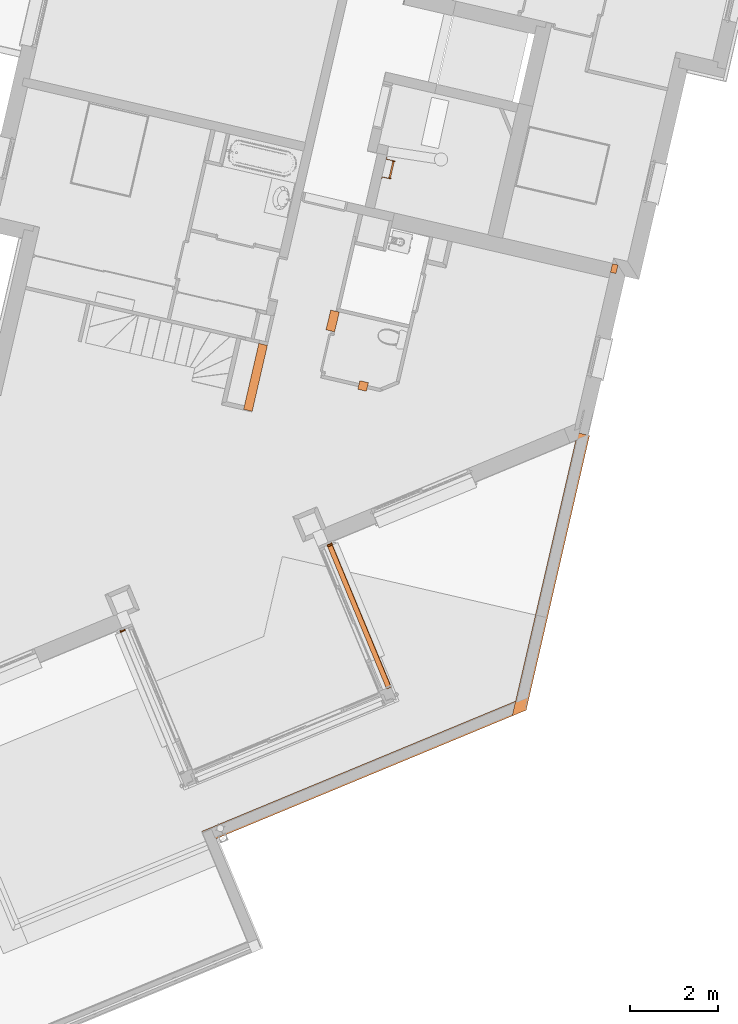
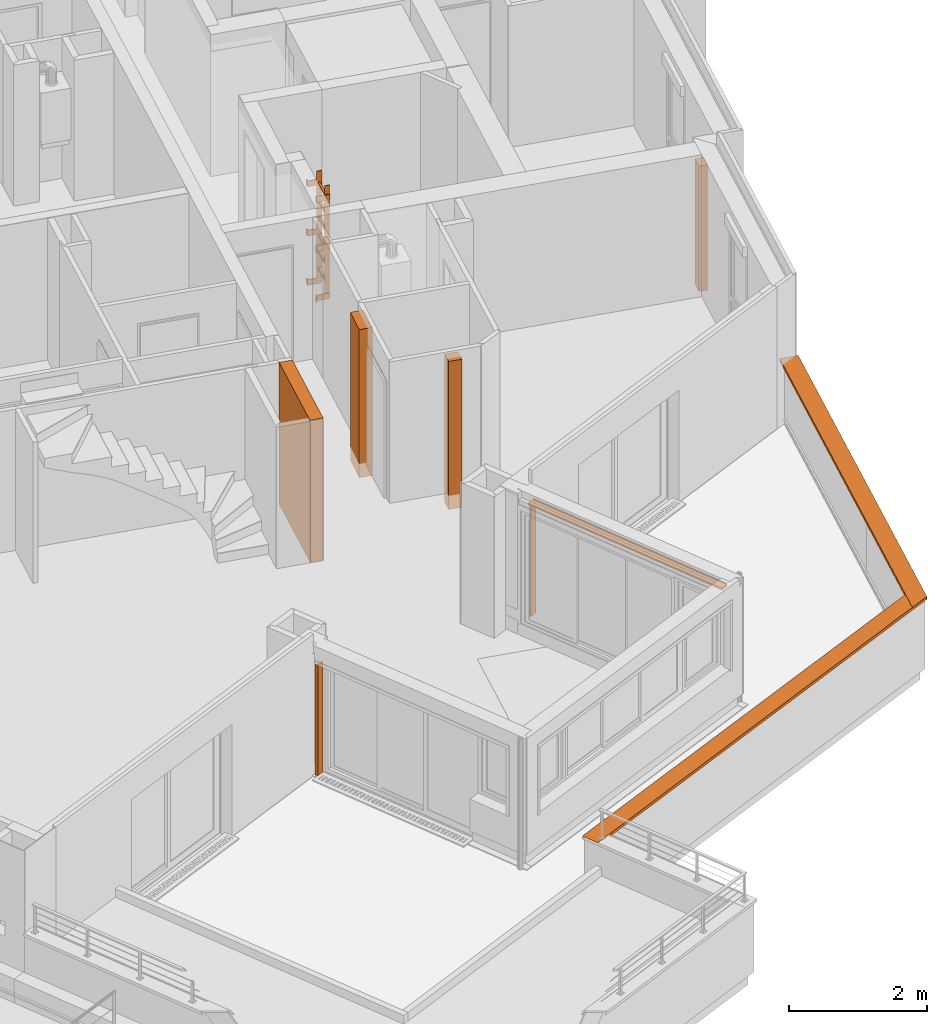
# One storey, part 60 of 62: 10 proxies.
"""IFC2X3 building model written with IfcOpenShell, lengths in metres."""

from ifc_helpers import new_model, entity, si_unit, converted_unit, derived_unit, money_unit, direction, frame, origin_with_axes, place, context, subcontext, project, spatial, faceted_brep, material, material_list, type_object, element, save


model = new_model("IFC2X3")

# Units and contexts
model_context = context("Model", 3, precision=1e-05, world=origin_with_axes(), true_north=direction((0.0, 1.0)))
body_context = subcontext(model_context, "Body", "Model", "MODEL_VIEW")
ifc_project = project(units=[si_unit("LENGTHUNIT", "METRE"), si_unit("AREAUNIT", "SQUARE_METRE"), si_unit("VOLUMEUNIT", "CUBIC_METRE"), converted_unit("PLANEANGLEUNIT", "DEGREE", entity("IfcPlaneAngleMeasure", 0.0174532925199), si_unit("PLANEANGLEUNIT", "RADIAN"), dimensions=[0, 0, 0, 0, 0, 0, 0]), si_unit("SOLIDANGLEUNIT", "STERADIAN"), money_unit("EUR"), converted_unit("TIMEUNIT", "Year", entity("IfcTimeMeasure", 31556926.0), si_unit("TIMEUNIT", "SECOND"), dimensions=[0, 0, 1, 0, 0, 0, 0]), si_unit("MASSUNIT", "GRAM", prefix="KILO"), si_unit("THERMODYNAMICTEMPERATUREUNIT", "DEGREE_CELSIUS"), si_unit("LUMINOUSINTENSITYUNIT", "LUMEN"), si_unit("ENERGYUNIT", "JOULE", prefix="MEGA"), derived_unit("THERMALCONDUCTANCEUNIT", [(si_unit("POWERUNIT", "WATT"), 1), (si_unit("LENGTHUNIT", "METRE"), -1), (si_unit("THERMODYNAMICTEMPERATUREUNIT", "KELVIN"), -1)]), derived_unit("SPECIFICHEATCAPACITYUNIT", [(si_unit("ENERGYUNIT", "JOULE"), 1), (si_unit("MASSUNIT", "GRAM", prefix="KILO"), -1), (si_unit("THERMODYNAMICTEMPERATUREUNIT", "KELVIN"), -1)]), derived_unit("MASSDENSITYUNIT", [(si_unit("MASSUNIT", "GRAM", prefix="KILO"), 1), (si_unit("VOLUMEUNIT", "CUBIC_METRE"), -1)])], contexts=[model_context])

# Site, building, storey
site_placement = place(None, origin_with_axes())
site = spatial("IfcSite", under=ifc_project, at=site_placement, Name="Site", CompositionType="ELEMENT")
building_placement = place(site_placement, origin_with_axes())
building = spatial("IfcBuilding", under=site, at=building_placement, Name="Bâtiment", CompositionType="ELEMENT")
storey_placement = place(building_placement, frame((0.0, 0.0, 8.16), z_axis=(0.0, 0.0, 1.0), x_axis=(1.0, 0.0, 0.0)))
storey = spatial("IfcBuildingStorey", under=building, at=storey_placement, Name="R+3", CompositionType="ELEMENT", Elevation=8.16)

# Proxies
ifc_material_1 = material(Name="Béton")
building_element_proxy_type_1 = type_object("IfcBuildingElementProxyType", Name="Béton 200", PredefinedType="NOTDEFINED")
proxy_1_placement = place(storey_placement, frame((-5.52689270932, -10.0728707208, -0.21), z_axis=(0.0, 0.0, 1.0), x_axis=(-0.974387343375, 0.224876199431, 0.0)))
element("IfcBuildingElementProxy", 1, at=proxy_1_placement, inside=storey, type_object=building_element_proxy_type_1, material=ifc_material_1, Name="M_Ext-007", context=body_context, shape_type="Brep", body=[
    faceted_brep([(0.0, 0.2, 2.43), (0.0, 0.2, 0.210000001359), (0.0, 0.0, 0.210000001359), (0.0, 0.0, 2.43), (0.13, 0.2, 2.43), (0.13, 0.2, 0.210000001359), (0.13, 0.0, 0.210000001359), (0.13, 0.0, 2.43)], [[[0, 1, 2, 3]], [[4, 5, 1, 0]], [[5, 6, 2, 1]], [[3, 2, 6, 7]], [[0, 3, 7, 4]], [[7, 6, 5, 4]]]),
])
ifc_material_2 = material(Name="Volume - Etude")
building_element_proxy_type_2 = type_object("IfcBuildingElementProxyType", Name="Volume - Etude", PredefinedType="NOTDEFINED")
proxy_2_placement = place(storey_placement, frame((-12.179389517, -16.4489291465, 1.03579627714), z_axis=(0.0, 0.0, 1.0), x_axis=(0.813891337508, 0.581017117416, 0.0)))
element("IfcBuildingElementProxy", 2, at=proxy_2_placement, inside=storey, type_object=building_element_proxy_type_2, material=ifc_material_2, Name="Forme-009", context=body_context, shape_type="Brep", body=[
    faceted_brep([(0.199337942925, -0.0254789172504, -0.780796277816), (0.199337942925, -0.0254789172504, 1.1742037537), (0.188094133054, -0.0741982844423, 1.1742037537), (0.188094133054, -0.0741982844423, -0.780796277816), (0.189631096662, -0.023238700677, -0.780796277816), (0.189631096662, -0.023238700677, 1.1742037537), (0.185133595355, -0.0427264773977, 1.1742037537), (0.0774534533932, -0.0178752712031, 1.1742037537), (0.07070717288, -0.047106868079, 1.1742037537), (0.07070717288, -0.047106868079, -0.780796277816), (0.0774534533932, -0.0178752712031, -0.780796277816), (0.185133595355, -0.0427264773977, -0.780796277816)], [[[0, 1, 2, 3]], [[4, 5, 1, 0]], [[1, 5, 6, 7, 8, 2]], [[3, 2, 8, 9]], [[3, 9, 10, 11, 4, 0]], [[4, 11, 6, 5]], [[6, 11, 10, 7]], [[10, 9, 8, 7]]]),
])
proxy_3_placement = place(storey_placement, frame((-16.6051915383, -18.2809897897, 1.03579627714), z_axis=(0.0, 0.0, 1.0), x_axis=(0.98619611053, 0.165581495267, 0.0)))
element("IfcBuildingElementProxy", 3, at=proxy_3_placement, inside=storey, type_object=building_element_proxy_type_2, material=ifc_material_2, Name="Forme-009", context=body_context, shape_type="Brep", body=[
    faceted_brep([(-0.199337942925, -0.0254789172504, -0.780796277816), (-0.188094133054, -0.0741982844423, -0.780796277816), (-0.188094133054, -0.0741982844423, 1.1742037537), (-0.199337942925, -0.0254789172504, 1.1742037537), (-0.189631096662, -0.023238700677, -0.780796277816), (-0.185133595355, -0.0427264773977, -0.780796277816), (-0.0774534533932, -0.0178752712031, -0.780796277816), (-0.07070717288, -0.047106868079, -0.780796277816), (-0.07070717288, -0.047106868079, 1.1742037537), (-0.0774534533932, -0.0178752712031, 1.1742037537), (-0.185133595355, -0.0427264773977, 1.1742037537), (-0.189631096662, -0.023238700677, 1.1742037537)], [[[0, 1, 2, 3]], [[1, 0, 4, 5, 6, 7]], [[1, 7, 8, 2]], [[3, 2, 8, 9, 10, 11]], [[4, 0, 3, 11]], [[4, 11, 10, 5]], [[10, 9, 6, 5]], [[6, 9, 8, 7]]]),
])
proxy_4_placement = place(storey_placement, frame((-11.3664084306, -18.2015801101, 2.25000000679), z_axis=(0.0, 0.0, 1.0), x_axis=(0.813890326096, 0.581018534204, 0.0)))
element("IfcBuildingElementProxy", 4, at=proxy_4_placement, inside=storey, type_object=building_element_proxy_type_2, material=ifc_material_2, Name="Forme-010", context=body_context, shape_type="Brep", body=[
    faceted_brep([(-0.239335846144, -1.57276923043, 0.0200000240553), (-0.249042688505, -1.57052899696, 0.0200000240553), (-0.24904266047, -1.57052900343, 0.0), (-0.356722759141, -1.54567760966, 0.0), (-0.356722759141, -1.54567760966, -0.0399999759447), (-0.239335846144, -1.57276923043, -0.0399999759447), (0.555983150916, 1.87334347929, 0.0200000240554), (0.546276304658, 1.87558369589, 0.0200000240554), (0.546276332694, 1.87558368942, 0.0), (0.438596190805, 1.90043489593, 0.0), (0.438596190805, 1.90043489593, -0.0399999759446), (0.555983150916, 1.87334347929, -0.0399999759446)], [[[0, 1, 2, 3, 4, 5]], [[1, 0, 6, 7]], [[2, 1, 7, 8]], [[3, 2, 8, 9]], [[4, 3, 9, 10]], [[5, 4, 10, 11]], [[0, 5, 11, 6]], [[6, 11, 10, 9, 8, 7]]]),
])
ifc_material_3 = material(Name="Métal - Aluminium")
building_element_proxy_type_3 = type_object("IfcBuildingElementProxyType", Name="Couvertine Métal 280 x 50", PredefinedType="USERDEFINED")
proxy_5_placement = place(storey_placement, frame((-7.72420971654, -20.0385112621, 1.278), z_axis=(0.0, 0.0, 1.0), x_axis=(-0.923701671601, -0.383112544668, 0.0)))
element("IfcBuildingElementProxy", 5, at=proxy_5_placement, inside=storey, type_object=building_element_proxy_type_3, material=ifc_material_3, Name="Couvertine métal laqué", ObjectType="CONSTRUCTION ELEMENT", context=body_context, shape_type="Brep", body=[
    faceted_brep([(7.75954952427, 0.140002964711, 1.8230412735e-09), (7.76135728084, 0.140002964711, 1.8230412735e-09), (7.76135727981, 0.138195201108, 0.0), (7.75954952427, 0.138195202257, -4.05240285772e-10), (7.76135727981, 0.140002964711, 0.00200000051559), (7.48316001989, 0.140002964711, 1.8230412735e-09), (7.48316001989, 0.140002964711, -0.0399754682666), (7.48316002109, 0.140002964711, -0.0442531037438), (7.48640833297, 0.140002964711, -0.0442531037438), (7.48135226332, 0.140002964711, -0.048), (-0.0720724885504, 0.140002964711, -0.048), (-0.0658602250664, 0.140002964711, -0.0442531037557), (-0.0698513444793, 0.140002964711, -0.0442531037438), (-0.0698513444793, 0.140002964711, -0.0399754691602), (-0.0698513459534, 0.140002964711, 3.11665360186e-10), (0.271962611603, 0.140002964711, 0.0), (0.271962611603, 0.140002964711, 0.00199999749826), (7.76135727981, -0.138195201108, 0.0), (7.76135727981, -0.140002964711, 0.00200000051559), (7.76135728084, -0.140002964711, -8.48483949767e-10), (7.48316001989, 0.138195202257, -4.05240285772e-10), (7.75954952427, -0.138195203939, -8.48483949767e-10), (7.48316001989, -0.138195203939, -8.48483949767e-10), (0.0733630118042, -0.138195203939, -8.48483949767e-10), (0.270672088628, 0.138195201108, 0.0), (7.48316001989, 0.138195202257, -0.0399754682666), (7.48316002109, 0.138195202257, -0.0442531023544), (7.48640833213, 0.138195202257, -0.0442531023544), (7.48640833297, 0.134946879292, -0.0442531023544), (7.48993832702, 0.131416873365, -0.0416371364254), (-0.0676524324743, 0.131416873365, -0.0416371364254), (-0.069469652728, 0.134946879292, -0.0442531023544), (-0.0671507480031, 0.138195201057, -0.044253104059), (-0.0711418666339, 0.138195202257, -0.0442531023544), (-0.0711418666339, 0.138195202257, -0.0399754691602), (-0.071141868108, 0.138195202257, -4.05240285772e-10), (0.0720724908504, -0.140002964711, -8.48483949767e-10), (0.0720724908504, -0.140002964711, 0.00199999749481), (0.0720724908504, -0.140002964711, -0.048), (7.76135727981, -0.140002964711, -0.048), (7.76135728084, -0.140002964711, -0.0399754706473), (7.75954952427, -0.140002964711, -0.0399754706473), (7.48316001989, -0.140002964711, -0.0399754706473), (7.48316001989, -0.140002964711, -8.48483949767e-10), (7.75954952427, -0.140002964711, -8.48483949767e-10), (0.0720724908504, -0.140002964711, -0.0399754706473), (0.0720724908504, -0.140002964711, -0.044253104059), (7.48316001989, -0.138195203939, -0.0399754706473), (7.75954952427, -0.138195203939, -0.0399754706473), (7.76135728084, -0.138195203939, -0.0399754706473), (7.76135727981, -0.138195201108, -0.0442531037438), (7.75954952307, -0.138195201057, -0.0442531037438), (0.0733630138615, -0.138195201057, -0.0442531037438), (0.0733630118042, -0.138195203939, -0.0399754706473), (7.48993832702, 0.134665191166, -0.0416371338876), (-0.065333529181, 0.134665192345, -0.0416371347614), (-0.0681703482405, 0.132422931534, -0.0399754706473), (7.48893226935, 0.132422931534, -0.0399754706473), (7.75601953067, -0.131416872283, -0.0416371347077), (7.75954952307, -0.1349468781, -0.0442531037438), (7.76135728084, -0.1349468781, -0.0442531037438), (0.0756819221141, -0.134946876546, -0.044253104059), (0.0734607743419, -0.1349468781, -0.0442531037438), (0.0716435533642, -0.131416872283, -0.0416371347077), (7.75377727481, -0.13242293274, -0.0399754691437), (0.0681703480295, -0.13242293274, -0.0399754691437), (0.0711418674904, -0.138195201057, -0.0442531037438)], [[[0, 1, 2, 3]], [[4, 1, 0, 5, 6, 7, 8, 9, 10, 11, 12, 13, 14, 15, 16]], [[17, 2, 1, 4, 18, 19]], [[20, 3, 2, 17, 21, 22, 23, 24]], [[5, 0, 3, 20]], [[25, 6, 5, 20]], [[25, 26, 7, 6]], [[26, 27, 8, 7]], [[27, 28, 9, 8]], [[10, 9, 28, 29, 30, 31]], [[31, 32, 11, 10]], [[12, 11, 32, 33]], [[34, 13, 12, 33]], [[35, 14, 13, 34]], [[35, 24, 15, 14]], [[16, 15, 24, 23, 36, 37]], [[37, 18, 4, 16]], [[38, 39, 40, 41, 42, 43, 44, 19, 18, 37, 36, 45, 46]], [[21, 17, 19, 44]], [[22, 21, 44, 43]], [[47, 48, 49, 50, 51, 52, 53, 23, 22]], [[32, 26, 25, 20, 24, 35, 34, 33]], [[54, 27, 26, 32, 55, 56, 57]], [[29, 28, 27, 54]], [[30, 29, 57, 56]], [[55, 32, 31, 30]], [[36, 23, 53, 45]], [[58, 59, 60, 39, 38, 61, 62, 63]], [[40, 39, 60, 50, 49]], [[40, 49, 48, 41]], [[42, 41, 48, 47]], [[43, 42, 47, 22]], [[45, 53, 52, 46]], [[46, 52, 61, 38]], [[50, 60, 59, 51]], [[52, 51, 64, 65, 66]], [[56, 55, 30]], [[57, 29, 54]], [[64, 51, 59, 58]], [[66, 62, 61, 52]], [[63, 62, 66, 65]], [[65, 64, 58, 63]]]),
])
proxy_6_placement = place(storey_placement, frame((-6.30693554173, -13.8974700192, 1.278), z_axis=(0.0, 0.0, 1.0), x_axis=(-0.224876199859, -0.974387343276, 0.0)))
element("IfcBuildingElementProxy", 6, at=proxy_6_placement, inside=storey, type_object=building_element_proxy_type_3, material=ifc_material_3, Name="Couvertine métal laqué", ObjectType="CONSTRUCTION ELEMENT", context=body_context, shape_type="Brep", body=[
    faceted_brep([(6.57442646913, -0.140003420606, 2.07169037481e-09), (6.57220533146, -0.140003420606, 2.07169037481e-09), (6.57091480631, -0.138195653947, 2.07169037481e-09), (6.57313594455, -0.138195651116, 0.0), (6.23261362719, -0.140003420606, 2.07169037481e-09), (6.57442647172, -0.140003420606, 0.00199999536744), (0.0, -0.140003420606, 0.002), (0.0, -0.140003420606, -0.048), (6.23039248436, -0.140003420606, -0.048), (6.23660472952, -0.140003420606, -0.0442531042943), (6.2326136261, -0.140003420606, -0.0442531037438), (6.23261362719, -0.140003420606, -0.0399754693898), (6.23132310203, -0.138195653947, 2.07169037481e-09), (6.37582622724, 0.138195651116, 0.0), (0.0, -0.138195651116, 0.0), (0.0, 0.138195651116, 0.0), (6.37582622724, 0.138195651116, -0.0442531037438), (6.37814513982, 0.13494731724, -0.0442531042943), (6.37453570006, 0.140003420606, -0.048), (6.37453570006, 0.140003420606, 0.00199999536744), (0.0, 0.140003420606, 0.002), (0.0, -0.138195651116, -0.0442531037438), (0.0, -0.132423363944, -0.0399754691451), (0.0, -0.131417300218, -0.0416371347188), (0.0, 0.140003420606, -0.048), (0.0, 0.131417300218, -0.0416371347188), (0.0, 0.132423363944, -0.0399754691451), (0.0, 0.138195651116, -0.0442531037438), (6.23481248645, -0.131417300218, -0.0416371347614), (6.2329952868, -0.134947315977, -0.0442531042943), (6.23531420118, -0.138195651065, -0.0442531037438), (6.23132309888, -0.138195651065, -0.0442531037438), (6.23132310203, -0.138195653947, -0.0399754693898), (6.37360508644, 0.138195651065, -0.0442531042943), (6.37592400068, 0.13494731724, -0.0442531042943), (6.37410680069, 0.131417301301, -0.0416371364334), (6.23713139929, -0.134665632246, -0.0416371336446), (6.23429458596, -0.132423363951, -0.0399754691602), (6.3706336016, 0.132423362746, -0.0399754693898)], [[[0, 1, 2, 3]], [[4, 1, 0, 5, 6, 7, 8, 9, 10, 11]], [[12, 2, 1, 4]], [[13, 3, 2, 12, 14, 15]], [[5, 0, 3, 13, 16, 17, 18, 19]], [[6, 5, 19, 20]], [[14, 21, 22, 23, 7, 6, 20, 24, 25, 26, 27, 15]], [[28, 29, 8, 7, 23]], [[30, 9, 8, 29]], [[31, 10, 9, 30]], [[32, 11, 10, 31]], [[4, 11, 32, 12]], [[14, 12, 32, 31, 21]], [[33, 16, 13, 15, 27]], [[33, 34, 17, 16]], [[24, 18, 17, 34, 35, 25]], [[20, 19, 18, 24]], [[31, 30, 36, 37, 22, 21]], [[22, 37, 28, 23]], [[25, 35, 38, 26]], [[26, 38, 33, 27]], [[28, 36, 30, 29]], [[35, 34, 33, 38]], [[37, 36, 28]]]),
])
ifc_material_4 = material(Name="Béton armé (Coulé)")
building_element_proxy_type_4 = type_object("IfcBuildingElementProxyType", Name="Béton armé (Coulé) 460 x 200", PredefinedType="NOTDEFINED")
proxy_7_placement = place(storey_placement, frame((-11.9809359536, -11.3384275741, -0.25), z_axis=(0.0, 0.0, 1.0), x_axis=(0.236989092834, 0.971512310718, 0.0)))
element("IfcBuildingElementProxy", 7, at=proxy_7_placement, inside=storey, type_object=building_element_proxy_type_4, material=ifc_material_4, Name="Pot-002", context=body_context, shape_type="Brep", body=[
    faceted_brep([(0.23, 0.1, 2.62), (0.23, 0.1, 0.0), (-0.23, 0.1, 0.0), (-0.23, 0.1, 2.62), (0.23, -0.1, 2.62), (0.23, -0.1, 0.0), (-0.23, -0.1, 0.0), (-0.23, -0.1, 2.62)], [[[0, 1, 2, 3]], [[4, 5, 1, 0]], [[2, 1, 5, 6]], [[3, 2, 6, 7]], [[4, 0, 3, 7]], [[7, 6, 5, 4]]]),
])
ifc_material_5 = material(Name="Finition int - Enduit plâtre")
ifc_material_list = material_list([ifc_material_5, ifc_material_1, ifc_material_5])
building_element_proxy_type_5 = type_object("IfcBuildingElementProxyType", Name="2 - Murs Béton 18 + Enduit 2 Faces 200", PredefinedType="NOTDEFINED")
proxy_8_placement = place(storey_placement, frame((-13.4654305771, -11.888139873, 0.0), z_axis=(0.0, 0.0, 1.0), x_axis=(-0.224876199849, -0.974387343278, 0.0)))
element("IfcBuildingElementProxy", 8, at=proxy_8_placement, inside=storey, type_object=building_element_proxy_type_5, material=ifc_material_list, Name="M_Ext-009", context=body_context, shape_type="Brep", body=[
    faceted_brep([(0.0, 0.0, 2.51), (1.53199999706, 0.0, 2.51), (1.53199999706, 0.01, 2.51), (0.0, 0.01, 2.51), (0.0, 0.0, 0.0), (1.53199999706, 0.0, 0.0), (1.53199999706, 0.01, 0.0), (0.0, 0.01, 0.0)], [[[0, 1, 2, 3]], [[4, 5, 1, 0]], [[2, 1, 5, 6]], [[3, 2, 6, 7]], [[4, 0, 3, 7]], [[7, 6, 5, 4]]]),
    faceted_brep([(0.0, -0.18, 2.51), (1.53199999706, -0.18, 2.51), (1.53199999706, 0.0, 2.51), (0.0, 0.0, 2.51), (0.0, -0.18, 0.0), (1.53199999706, -0.18, 0.0), (1.53199999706, 0.0, 0.0), (0.0, 0.0, 0.0)], [[[0, 1, 2, 3]], [[4, 5, 1, 0]], [[2, 1, 5, 6]], [[3, 2, 6, 7]], [[4, 0, 3, 7]], [[7, 6, 5, 4]]]),
    faceted_brep([(0.0, -0.19, 2.51), (1.53199999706, -0.19, 2.51), (1.53199999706, -0.18, 2.51), (0.0, -0.18, 2.51), (0.0, -0.19, 0.0), (1.53199999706, -0.19, 0.0), (1.53199999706, -0.18, 0.0), (0.0, -0.18, 0.0)], [[[0, 1, 2, 3]], [[4, 5, 1, 0]], [[2, 1, 5, 6]], [[3, 2, 6, 7]], [[4, 0, 3, 7]], [[7, 6, 5, 4]]]),
])
building_element_proxy_type_6 = type_object("IfcBuildingElementProxyType", Name="Echelle murale 23", PredefinedType="NOTDEFINED")
proxy_9_placement = place(storey_placement, frame((-10.8209918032, -7.87766655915, 0.235721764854), z_axis=(0.0, 0.0, 1.0), x_axis=(0.224876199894, 0.974387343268, 0.0)))
element("IfcBuildingElementProxy", 9, at=proxy_9_placement, inside=storey, type_object=building_element_proxy_type_6, Name="Echelle aluminium", context=body_context, shape_type="Brep", body=[
    faceted_brep([(-0.2508, 0.0, 0.1016), (-0.2508, -0.0127, 0.1016), (-0.2508, -0.0127, 0.2032), (-0.2508, 0.0, 0.2032), (-0.2, 0.0, 0.1016), (-0.2, -0.2159, 0.1016), (-0.2127, -0.2159, 0.1016), (-0.2127, -0.0127, 0.1016), (-0.2127, -0.0127, 0.2032), (-0.2127, -0.2159, 0.2032), (-0.2, -0.2159, 0.2032), (-0.2, 0.0, 0.2032)], [[[0, 1, 2, 3]], [[0, 4, 5, 6, 7, 1]], [[1, 7, 8, 2]], [[3, 2, 8, 9, 10, 11]], [[4, 0, 3, 11]], [[5, 4, 11, 10]], [[6, 5, 10, 9]], [[7, 6, 9, 8]]]),
    faceted_brep([(-0.2508, 0.0, 0.9746), (-0.2508, -0.0127, 0.9746), (-0.2508, -0.0127, 1.0762), (-0.2508, 0.0, 1.0762), (-0.2, 0.0, 0.9746), (-0.2, -0.2159, 0.9746), (-0.2127, -0.2159, 0.9746), (-0.2127, -0.0127, 0.9746), (-0.2127, -0.0127, 1.0762), (-0.2127, -0.2159, 1.0762), (-0.2, -0.2159, 1.0762), (-0.2, 0.0, 1.0762)], [[[0, 1, 2, 3]], [[0, 4, 5, 6, 7, 1]], [[1, 7, 8, 2]], [[3, 2, 8, 9, 10, 11]], [[4, 0, 3, 11]], [[5, 4, 11, 10]], [[6, 5, 10, 9]], [[7, 6, 9, 8]]]),
    faceted_brep([(-0.2508, 0.0, 1.8476), (-0.2508, -0.0127, 1.8476), (-0.2508, -0.0127, 1.9492), (-0.2508, 0.0, 1.9492), (-0.2, 0.0, 1.8476), (-0.2, -0.2159, 1.8476), (-0.2127, -0.2159, 1.8476), (-0.2127, -0.0127, 1.8476), (-0.2127, -0.0127, 1.9492), (-0.2127, -0.2159, 1.9492), (-0.2, -0.2159, 1.9492), (-0.2, 0.0, 1.9492)], [[[0, 1, 2, 3]], [[0, 4, 5, 6, 7, 1]], [[1, 7, 8, 2]], [[3, 2, 8, 9, 10, 11]], [[4, 0, 3, 11]], [[5, 4, 11, 10]], [[6, 5, 10, 9]], [[7, 6, 9, 8]]]),
    faceted_brep([(0.2, 0.0, 0.1016), (0.2, -0.2159, 0.1016), (0.2, -0.2159, 0.2032), (0.2, 0.0, 0.2032), (0.2508, 0.0, 0.1016), (0.2508, -0.0127, 0.1016), (0.2127, -0.0127, 0.1016), (0.2127, -0.2159, 0.1016), (0.2127, -0.2159, 0.2032), (0.2127, -0.0127, 0.2032), (0.2508, -0.0127, 0.2032), (0.2508, 0.0, 0.2032)], [[[0, 1, 2, 3]], [[0, 4, 5, 6, 7, 1]], [[1, 7, 8, 2]], [[3, 2, 8, 9, 10, 11]], [[4, 0, 3, 11]], [[5, 4, 11, 10]], [[6, 5, 10, 9]], [[7, 6, 9, 8]]]),
    faceted_brep([(0.2, 0.0, 0.9746), (0.2, -0.2159, 0.9746), (0.2, -0.2159, 1.0762), (0.2, 0.0, 1.0762), (0.2508, 0.0, 0.9746), (0.2508, -0.0127, 0.9746), (0.2127, -0.0127, 0.9746), (0.2127, -0.2159, 0.9746), (0.2127, -0.2159, 1.0762), (0.2127, -0.0127, 1.0762), (0.2508, -0.0127, 1.0762), (0.2508, 0.0, 1.0762)], [[[0, 1, 2, 3]], [[0, 4, 5, 6, 7, 1]], [[1, 7, 8, 2]], [[3, 2, 8, 9, 10, 11]], [[4, 0, 3, 11]], [[5, 4, 11, 10]], [[6, 5, 10, 9]], [[7, 6, 9, 8]]]),
    faceted_brep([(0.2, 0.0, 1.8476), (0.2, -0.2159, 1.8476), (0.2, -0.2159, 1.9492), (0.2, 0.0, 1.9492), (0.2508, 0.0, 1.8476), (0.2508, -0.0127, 1.8476), (0.2127, -0.0127, 1.8476), (0.2127, -0.2159, 1.8476), (0.2127, -0.2159, 1.9492), (0.2127, -0.0127, 1.9492), (0.2508, -0.0127, 1.9492), (0.2508, 0.0, 1.9492)], [[[0, 1, 2, 3]], [[0, 4, 5, 6, 7, 1]], [[1, 7, 8, 2]], [[3, 2, 8, 9, 10, 11]], [[4, 0, 3, 11]], [[5, 4, 11, 10]], [[6, 5, 10, 9]], [[7, 6, 9, 8]]]),
    faceted_brep([(-0.2, -0.2159, 0.2032), (-0.1873, -0.2159, 0.2032), (-0.1873, -0.2159, 2.1016), (-0.2, -0.2159, 2.1016), (-0.2, -0.1397, 0.2032), (-0.1873, -0.1397, 0.2032), (-0.1873, -0.1397, 2.1016), (-0.2, -0.1397, 2.1016)], [[[0, 1, 2, 3]], [[0, 4, 5, 1]], [[1, 5, 6, 2]], [[3, 2, 6, 7]], [[4, 0, 3, 7]], [[5, 4, 7, 6]]]),
    faceted_brep([(0.2, -0.1397, 0.2032), (0.1873, -0.1397, 0.2032), (0.1873, -0.1397, 2.1016), (0.2, -0.1397, 2.1016), (0.2, -0.2159, 0.2032), (0.1873, -0.2159, 0.2032), (0.1873, -0.2159, 2.1016), (0.2, -0.2159, 2.1016)], [[[0, 1, 2, 3]], [[0, 4, 5, 1]], [[1, 5, 6, 2]], [[3, 2, 6, 7]], [[4, 0, 3, 7]], [[5, 4, 7, 6]]]),
    faceted_brep([(0.1873, -0.19685, 0.3716), (0.1873, -0.15875, 0.3716), (0.1873, -0.15875, 0.4016), (0.1873, -0.19685, 0.4016), (-0.1873, -0.19685, 0.3716), (-0.1873, -0.15875, 0.3716), (-0.1873, -0.15875, 0.4016), (-0.1873, -0.19685, 0.4016)], [[[0, 1, 2, 3]], [[0, 4, 5, 1]], [[1, 5, 6, 2]], [[3, 2, 6, 7]], [[4, 0, 3, 7]], [[5, 4, 7, 6]]]),
    faceted_brep([(0.1873, -0.19685, 0.6716), (0.1873, -0.15875, 0.6716), (0.1873, -0.15875, 0.7016), (0.1873, -0.19685, 0.7016), (-0.1873, -0.19685, 0.6716), (-0.1873, -0.15875, 0.6716), (-0.1873, -0.15875, 0.7016), (-0.1873, -0.19685, 0.7016)], [[[0, 1, 2, 3]], [[0, 4, 5, 1]], [[1, 5, 6, 2]], [[3, 2, 6, 7]], [[4, 0, 3, 7]], [[5, 4, 7, 6]]]),
    faceted_brep([(0.1873, -0.19685, 0.9716), (0.1873, -0.15875, 0.9716), (0.1873, -0.15875, 1.0016), (0.1873, -0.19685, 1.0016), (-0.1873, -0.19685, 0.9716), (-0.1873, -0.15875, 0.9716), (-0.1873, -0.15875, 1.0016), (-0.1873, -0.19685, 1.0016)], [[[0, 1, 2, 3]], [[0, 4, 5, 1]], [[1, 5, 6, 2]], [[3, 2, 6, 7]], [[4, 0, 3, 7]], [[5, 4, 7, 6]]]),
    faceted_brep([(0.1873, -0.19685, 1.2716), (0.1873, -0.15875, 1.2716), (0.1873, -0.15875, 1.3016), (0.1873, -0.19685, 1.3016), (-0.1873, -0.19685, 1.2716), (-0.1873, -0.15875, 1.2716), (-0.1873, -0.15875, 1.3016), (-0.1873, -0.19685, 1.3016)], [[[0, 1, 2, 3]], [[0, 4, 5, 1]], [[1, 5, 6, 2]], [[3, 2, 6, 7]], [[4, 0, 3, 7]], [[5, 4, 7, 6]]]),
    faceted_brep([(0.1873, -0.19685, 1.5716), (0.1873, -0.15875, 1.5716), (0.1873, -0.15875, 1.6016), (0.1873, -0.19685, 1.6016), (-0.1873, -0.19685, 1.5716), (-0.1873, -0.15875, 1.5716), (-0.1873, -0.15875, 1.6016), (-0.1873, -0.19685, 1.6016)], [[[0, 1, 2, 3]], [[0, 4, 5, 1]], [[1, 5, 6, 2]], [[3, 2, 6, 7]], [[4, 0, 3, 7]], [[5, 4, 7, 6]]]),
    faceted_brep([(0.1873, -0.19685, 1.8716), (0.1873, -0.15875, 1.8716), (0.1873, -0.15875, 1.9016), (0.1873, -0.19685, 1.9016), (-0.1873, -0.19685, 1.8716), (-0.1873, -0.15875, 1.8716), (-0.1873, -0.15875, 1.9016), (-0.1873, -0.19685, 1.9016)], [[[0, 1, 2, 3]], [[0, 4, 5, 1]], [[1, 5, 6, 2]], [[3, 2, 6, 7]], [[4, 0, 3, 7]], [[5, 4, 7, 6]]]),
])
building_element_proxy_type_7 = type_object("IfcBuildingElementProxyType", Name="Béton armé (Coulé) 200 x 200", PredefinedType="NOTDEFINED")
proxy_10_placement = place(storey_placement, frame((-11.2923154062, -12.8084292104, -0.25), z_axis=(0.0, 0.0, 1.0), x_axis=(0.97438734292, -0.224876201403, 0.0)))
element("IfcBuildingElementProxy", 10, at=proxy_10_placement, inside=storey, type_object=building_element_proxy_type_7, material=ifc_material_4, Name="Pot-002", context=body_context, shape_type="Brep", body=[
    faceted_brep([(0.1, 0.1, 2.62), (0.1, 0.1, 0.0), (-0.1, 0.1, 0.0), (-0.1, 0.1, 2.62), (0.1, -0.1, 2.62), (0.1, -0.1, 0.0), (-0.1, -0.1, 0.0), (-0.1, -0.1, 2.62)], [[[0, 1, 2, 3]], [[4, 5, 1, 0]], [[2, 1, 5, 6]], [[3, 2, 6, 7]], [[4, 0, 3, 7]], [[7, 6, 5, 4]]]),
])

save(model, "model.ifc")
